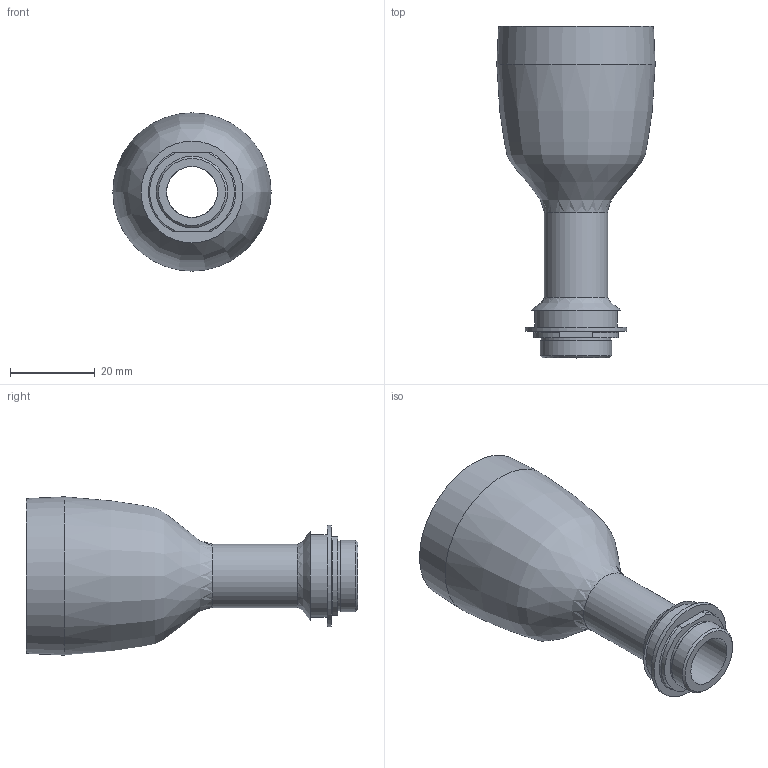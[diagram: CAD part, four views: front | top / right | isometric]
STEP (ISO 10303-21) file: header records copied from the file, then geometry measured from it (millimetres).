
FILE_DESCRIPTION(('FreeCAD Model'),'2;1');
FILE_NAME('Open CASCADE Shape Model','2026-11-12T12:36:15',('FreeCAD'),( 'FreeCAD'),'Open CASCADE STEP processor 7.8','FreeCAD','Unknown');
FILE_SCHEMA(('AUTOMOTIVE_DESIGN { 1 0 10303 214 1 1 1 1 }'));
Length unit declared in the file: millimetre
Products named in the file (1): Open CASCADE STEP translator 7.8 1
Bounding box: 37.34 x 78.25 x 37.34 mm (x, y, z)
Volume: 18057 mm3; surface area: 12709.5 mm2
Topology: 1 solids, 1 shells, 40 faces, 80 edges, 51 vertices
Faces by surface type: cylinder 14, plane 13, torus 5, cone 3, revolution 3, bspline 2
Full cylindrical faces by diameter (mm): 12 x1, 15 x1, 16.4 x1, 16.773 x1, 19.5 x1, 24 x1, 28 x1, 28.5 x1, 30 x1, 30.4 x1, 31.6 x1, 34.8 x1
Entity records: 1469 total; most frequent: CARTESIAN_POINT 615, DIRECTION 186, ORIENTED_EDGE 160, AXIS2_PLACEMENT_3D 80, EDGE_CURVE 80, FACE_BOUND 51, EDGE_LOOP 51, VERTEX_POINT 51
